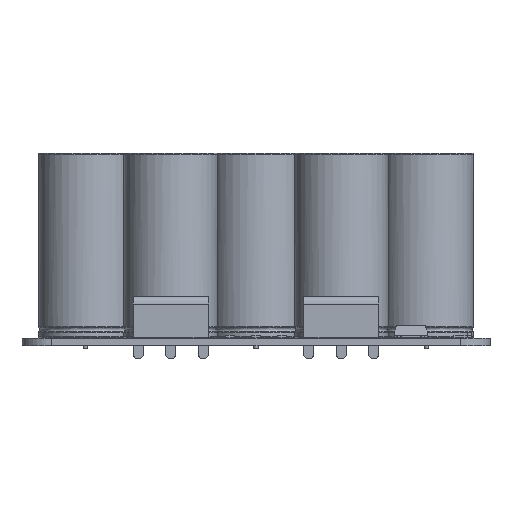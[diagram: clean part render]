
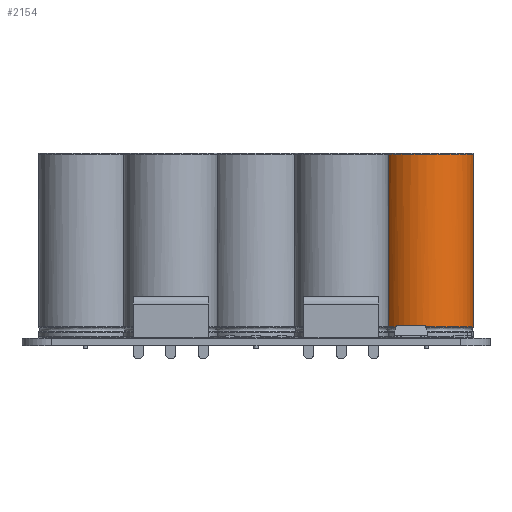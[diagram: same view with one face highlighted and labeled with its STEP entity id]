
A CAD part, left-side view. The second image highlights one B-rep face of the part: STEP entity #2154.
In plain terms, the highlighted cylindrical face has radius 9 mm (diameter 18 mm), a full revolution.
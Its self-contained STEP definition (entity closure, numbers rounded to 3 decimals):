
#2082 = VERTEX_POINT('',#2083);
#2083 = CARTESIAN_POINT('',(12.75,0.,2.135));
#2089 = EDGE_CURVE('',#2082,#2082,#2090,.T.);
#2090 = ( BOUNDED_CURVE() B_SPLINE_CURVE(14,(#2091,#2092,#2093,#2094,
    #2095,#2096,#2097,#2098,#2099,#2100,#2101,#2102,#2103,#2104,#2105),
.UNSPECIFIED.,.T.,.F.) B_SPLINE_CURVE_WITH_KNOTS((1,14,14,1),(
    -56.549,0.,56.549,113.097),
.UNSPECIFIED.) CURVE() GEOMETRIC_REPRESENTATION_ITEM() 
RATIONAL_B_SPLINE_CURVE((1.,1.,1.,1.
    ,1.,1.,1.,1.,
    1.,1.,1.,1.,
1.,1.,1.)) REPRESENTATION_ITEM('') );
#2091 = CARTESIAN_POINT('',(12.75,0.,2.135));
#2092 = CARTESIAN_POINT('',(12.75,-3.981,
    2.135));
#2093 = CARTESIAN_POINT('',(10.854,-8.046,
    2.135));
#2094 = CARTESIAN_POINT('',(6.929,-11.137,2.135
    ));
#2095 = CARTESIAN_POINT('',(1.575,-12.153,
    2.135));
#2096 = CARTESIAN_POINT('',(-3.971,-10.142,
    2.135));
#2097 = CARTESIAN_POINT('',(-7.692,-6.16,2.135
    ));
#2098 = CARTESIAN_POINT('',(-10.045,0.,
    2.135));
#2099 = CARTESIAN_POINT('',(-7.692,6.16,2.135
    ));
#2100 = CARTESIAN_POINT('',(-3.971,10.142,2.135
    ));
#2101 = CARTESIAN_POINT('',(1.575,12.153,2.135
    ));
#2102 = CARTESIAN_POINT('',(6.929,11.137,
    2.135));
#2103 = CARTESIAN_POINT('',(10.854,8.046,
    2.135));
#2104 = CARTESIAN_POINT('',(12.75,3.981,
    2.135));
#2105 = CARTESIAN_POINT('',(12.75,0.,2.135));
#2154 = ADVANCED_FACE('',(#2155),#2174,.T.);
#2155 = FACE_BOUND('',#2156,.T.);
#2156 = EDGE_LOOP('',(#2157,#2166,#2172,#2173));
#2157 = ORIENTED_EDGE('',*,*,#2158,.T.);
#2158 = EDGE_CURVE('',#2159,#2159,#2161,.T.);
#2159 = VERTEX_POINT('',#2160);
#2160 = CARTESIAN_POINT('',(12.75,0.,35.3));
#2161 = CIRCLE('',#2162,9.);
#2162 = AXIS2_PLACEMENT_3D('',#2163,#2164,#2165);
#2163 = CARTESIAN_POINT('',(3.75,0.,35.3));
#2164 = DIRECTION('',(0.,-0.,-1.));
#2165 = DIRECTION('',(1.,0.,0.));
#2166 = ORIENTED_EDGE('',*,*,#2167,.F.);
#2167 = EDGE_CURVE('',#2082,#2159,#2168,.T.);
#2168 = LINE('',#2169,#2170);
#2169 = CARTESIAN_POINT('',(12.75,0.,2.));
#2170 = VECTOR('',#2171,1.);
#2171 = DIRECTION('',(0.,0.,1.));
#2172 = ORIENTED_EDGE('',*,*,#2089,.F.);
#2173 = ORIENTED_EDGE('',*,*,#2167,.T.);
#2174 = CYLINDRICAL_SURFACE('',#2175,9.);
#2175 = AXIS2_PLACEMENT_3D('',#2176,#2177,#2178);
#2176 = CARTESIAN_POINT('',(3.75,0.,2.));
#2177 = DIRECTION('',(0.,0.,1.));
#2178 = DIRECTION('',(1.,0.,0.));
